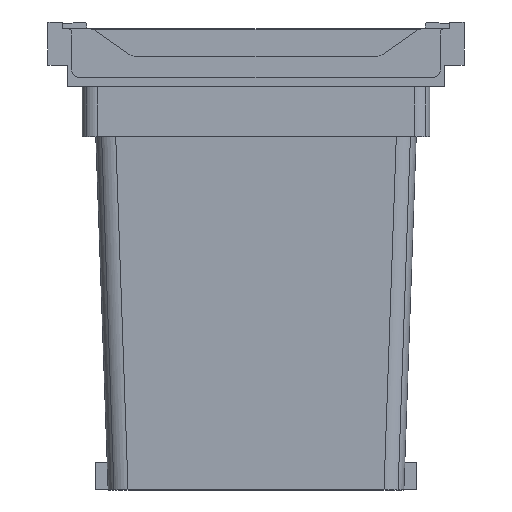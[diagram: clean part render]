
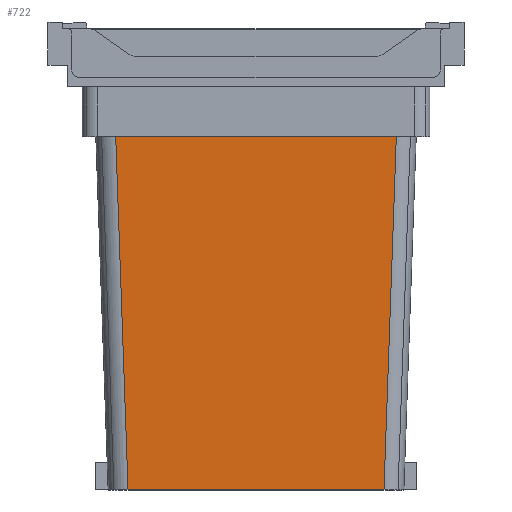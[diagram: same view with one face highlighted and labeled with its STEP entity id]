
A CAD part, front view. The second image highlights one B-rep face of the part: STEP entity #722.
In plain terms, the highlighted planar face has unit normal (0, -0.999, -0.035).
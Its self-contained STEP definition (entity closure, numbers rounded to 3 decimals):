
#722=ADVANCED_FACE('',(#1456),#1457,.T.);
#1456=FACE_OUTER_BOUND('',#2188,.T.);
#1457=PLANE('',#2189);
#2188=EDGE_LOOP('',(#4443,#4444,#4445,#4446));
#2189=AXIS2_PLACEMENT_3D('',#4447,#4448,#4449);
#4443=ORIENTED_EDGE('',*,*,#5365,.F.);
#4444=ORIENTED_EDGE('',*,*,#5358,.T.);
#4445=ORIENTED_EDGE('',*,*,#5286,.F.);
#4446=ORIENTED_EDGE('',*,*,#5323,.F.);
#4447=CARTESIAN_POINT('',(147.004,25.968,0.0));
#4448=DIRECTION('',(0.,-0.999,-0.035));
#4449=DIRECTION('',(1.0,0.,0.));
#5286=EDGE_CURVE('',#6582,#6584,#6585,.T.);
#5323=EDGE_CURVE('',#6648,#6582,#6649,.T.);
#5358=EDGE_CURVE('',#6695,#6584,#6696,.T.);
#5365=EDGE_CURVE('',#6695,#6648,#6704,.T.);
#6582=VERTEX_POINT('',#8379);
#6584=VERTEX_POINT('',#8381);
#6585=LINE('',#8382,#8383);
#6648=VERTEX_POINT('',#8461);
#6649=LINE('',#8462,#8463);
#6695=VERTEX_POINT('',#8523);
#6696=LINE('',#8524,#8525);
#6704=LINE('',#8534,#8535);
#8379=CARTESIAN_POINT('',(-130.008,25.968,0.0));
#8381=CARTESIAN_POINT('',(-142.405,13.571,355.0));
#8382=CARTESIAN_POINT('',(-129.852,26.125,-4.477));
#8383=VECTOR('',#9443,10.0);
#8461=CARTESIAN_POINT('',(127.016,25.968,0.0));
#8462=CARTESIAN_POINT('',(179.004,25.968,0.0));
#8463=VECTOR('',#9498,10.0);
#8523=CARTESIAN_POINT('',(139.413,13.571,355.0));
#8524=CARTESIAN_POINT('',(72.754,13.571,355.0));
#8525=VECTOR('',#9555,10.0);
#8534=CARTESIAN_POINT('',(126.86,26.125,-4.477));
#8535=VECTOR('',#9563,10.0);
#9443=DIRECTION('',(-0.035,-0.035,0.999));
#9498=DIRECTION('',(-1.0,0.,0.));
#9555=DIRECTION('',(-1.0,0.,0.));
#9563=DIRECTION('',(-0.035,0.035,-0.999));
